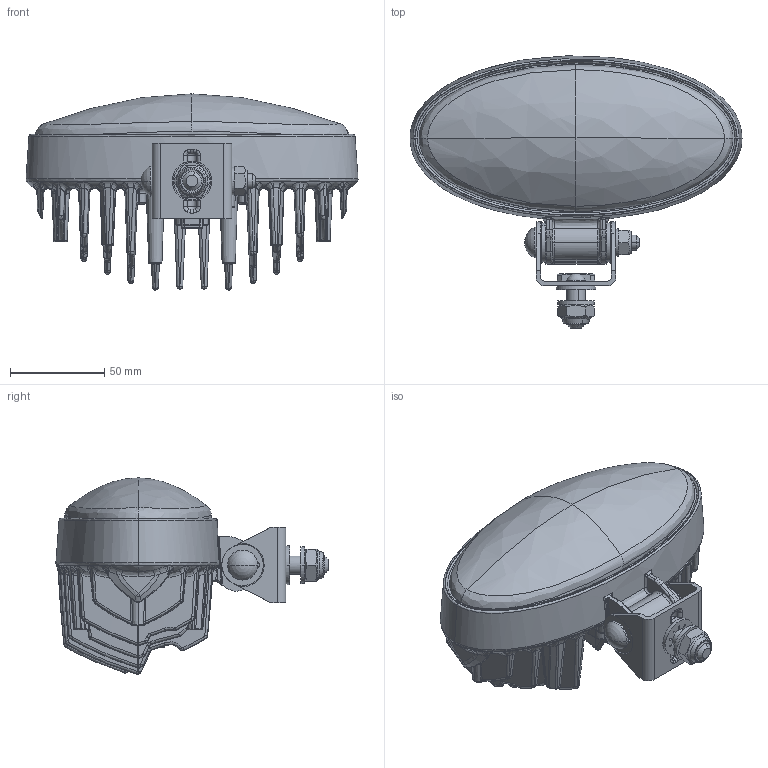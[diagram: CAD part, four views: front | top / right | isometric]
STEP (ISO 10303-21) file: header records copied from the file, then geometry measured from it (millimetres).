
FILE_DESCRIPTION(('CATIA V5 STEP Exchange','CAx-IF Rec.Pracs.--- Model Styling and Organization---1.5--- 2016-08-15','CAx-IF Rec.Pracs.---Supplemental Geometry---1.0---2011-11-01','CAx-IF Rec.Pracs.--- Composite Materials ---1.1---2010-07-15'),'2;1');
FILE_NAME('E:\tmp\ddx\2011218\HELLA_3D_data_Oval_90_LED_Gen_1_upright_pendant_mounting_1GB-996-386-00.stp','2022-01-18T07:37:15+00:00',('none'),('none'),'CATIA Version 5-6 Release 2020 SP3 HF9','CATIA V5 STEP AP214 Edition 3 v2','none');
FILE_SCHEMA(('AUTOMOTIVE_DESIGN { 1 0 10303 214 3 1 1 1 }'));
Products named in the file (1): 10000774496_D10_001
Bounding box: 176.53 x 144.75 x 104.34 mm (x, y, z)
Volume: 631059.5 mm3; surface area: 115774.6 mm2
Topology: 3 solids, 10 shells, 2689 faces, 7225 edges, 4154 vertices
Faces by surface type: bspline 1353, plane 618, cylinder 327, torus 183, cone 160, sphere 44, extrusion 4
Entity records: 204952 total; most frequent: CARTESIAN_POINT 152420, ORIENTED_EDGE 14222, EDGE_CURVE 7111, DIRECTION 5167, B_SPLINE_CURVE_WITH_KNOTS 4264, VERTEX_POINT 4154, EDGE_LOOP 2751, ADVANCED_FACE 2689
